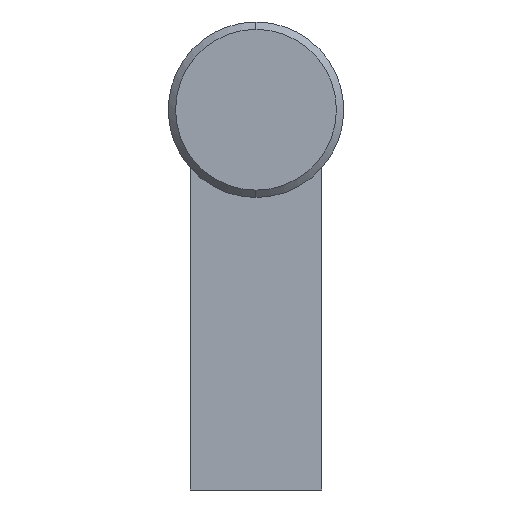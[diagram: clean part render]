
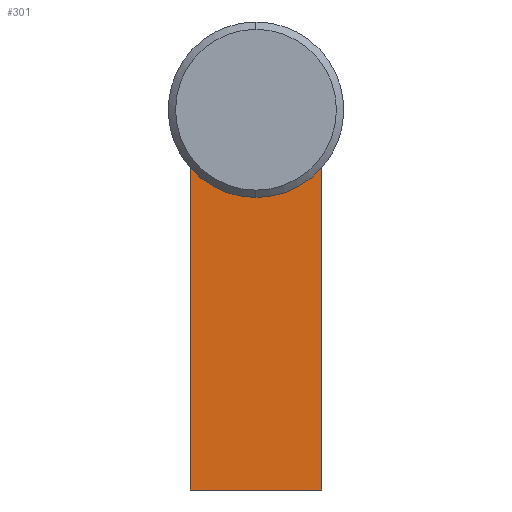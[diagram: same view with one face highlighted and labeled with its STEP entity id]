
A CAD part, left-side view. The second image highlights one B-rep face of the part: STEP entity #301.
In plain terms, the highlighted planar face has unit normal (-1, 0, 0).
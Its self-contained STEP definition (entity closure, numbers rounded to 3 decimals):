
#193 = VERTEX_POINT( '', #445 );
#225 = VERTEX_POINT( '', #482 );
#235 = EDGE_CURVE( '', #225, #339, #492, .T. );
#285 = VERTEX_POINT( '', #545 );
#291 = EDGE_CURVE( '', #193, #285, #553, .T. );
#301 = ADVANCED_FACE( '', ( #563 ), #564, .F. );
#317 = EDGE_CURVE( '', #285, #351, #581, .T. );
#339 = VERTEX_POINT( '', #607 );
#347 = EDGE_CURVE( '', #339, #351, #615, .T. );
#351 = VERTEX_POINT( '', #619 );
#353 = EDGE_CURVE( '', #193, #225, #621, .T. );
#445 = CARTESIAN_POINT( '', ( -10.5, -4.5, 22.031 ) );
#482 = CARTESIAN_POINT( '', ( -10.5, -4.5, 0. ) );
#492 = LINE( '', #779, #780 );
#545 = CARTESIAN_POINT( '', ( -10.5, 0., 20. ) );
#553 = CIRCLE( '', #865, 6. );
#563 = FACE_OUTER_BOUND( '', #878, .T. );
#564 = PLANE( '', #879 );
#581 = CIRCLE( '', #901, 6. );
#607 = CARTESIAN_POINT( '', ( -10.5, 4.5, 0. ) );
#615 = LINE( '', #944, #945 );
#619 = CARTESIAN_POINT( '', ( -10.5, 4.5, 22.031 ) );
#621 = LINE( '', #953, #954 );
#779 = CARTESIAN_POINT( '', ( -10.5, -4.5, 0. ) );
#780 = VECTOR( '', #1115, 1. );
#865 = AXIS2_PLACEMENT_3D( '', #1196, #1197, #1198 );
#878 = EDGE_LOOP( '', ( #1204, #1205, #1206, #1207, #1208 ) );
#879 = AXIS2_PLACEMENT_3D( '', #1209, #1210, #1211 );
#901 = AXIS2_PLACEMENT_3D( '', #1227, #1228, #1229 );
#944 = CARTESIAN_POINT( '', ( -10.5, 4.5, 0. ) );
#945 = VECTOR( '', #1270, 1. );
#953 = CARTESIAN_POINT( '', ( -10.5, -4.5, 22.031 ) );
#954 = VECTOR( '', #1274, 1. );
#1115 = DIRECTION( '', ( 0., 1., 0. ) );
#1196 = CARTESIAN_POINT( '', ( -10.5, 0., 26. ) );
#1197 = DIRECTION( '', ( 1., 0., 0. ) );
#1198 = DIRECTION( '', ( 0., 0., 1. ) );
#1204 = ORIENTED_EDGE( '', *, *, #353, .F. );
#1205 = ORIENTED_EDGE( '', *, *, #291, .T. );
#1206 = ORIENTED_EDGE( '', *, *, #317, .T. );
#1207 = ORIENTED_EDGE( '', *, *, #347, .F. );
#1208 = ORIENTED_EDGE( '', *, *, #235, .F. );
#1209 = CARTESIAN_POINT( '', ( -10.5, 0., 0. ) );
#1210 = DIRECTION( '', ( 1., 0., 0. ) );
#1211 = DIRECTION( '', ( 0., 0., -1. ) );
#1227 = CARTESIAN_POINT( '', ( -10.5, 0., 26. ) );
#1228 = DIRECTION( '', ( 1., 0., 0. ) );
#1229 = DIRECTION( '', ( 0., 0., 1. ) );
#1270 = DIRECTION( '', ( 0., 0., 1. ) );
#1274 = DIRECTION( '', ( 0., 0., -1. ) );
